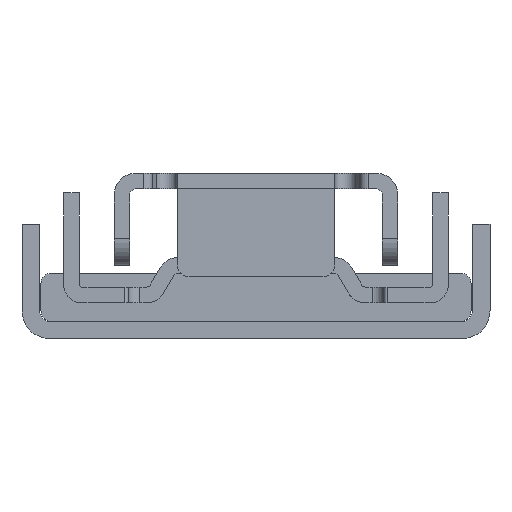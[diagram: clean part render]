
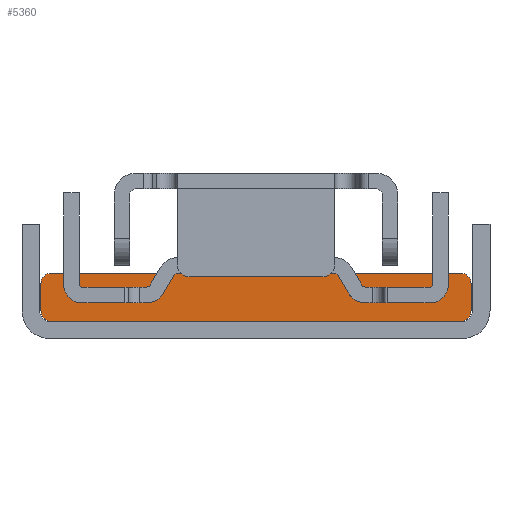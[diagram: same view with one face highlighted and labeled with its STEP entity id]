
A CAD part, front view. The second image highlights one B-rep face of the part: STEP entity #5360.
In plain terms, the highlighted planar face has unit normal (0, -1, 0) as drawn and (-1, 0, 0) by its records, which use the part's own axes.
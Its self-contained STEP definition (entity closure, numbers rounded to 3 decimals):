
#5184=DIRECTION('',(0.,0.,1.));
#5185=VECTOR('',#5184,46.6);
#5186=CARTESIAN_POINT('',(-48.7,0.,-23.3));
#5187=LINE('',#5186,#5185);
#5188=CARTESIAN_POINT('',(-48.7,4.3,23.3));
#5189=DIRECTION('',(-1.,0.,0.));
#5190=DIRECTION('',(0.,0.,1.));
#5191=AXIS2_PLACEMENT_3D('',#5188,#5189,#5190);
#5193=CARTESIAN_POINT('',(-48.7,1.2,23.3));
#5194=DIRECTION('',(-1.,0.,0.));
#5195=DIRECTION('',(0.,-1.,0.));
#5196=AXIS2_PLACEMENT_3D('',#5193,#5194,#5195);
#5198=CARTESIAN_POINT('',(-48.7,1.2,-23.3));
#5199=DIRECTION('',(-1.,0.,0.));
#5200=DIRECTION('',(0.,0.,-1.));
#5201=AXIS2_PLACEMENT_3D('',#5198,#5199,#5200);
#5203=DIRECTION('',(0.,1.,0.));
#5204=VECTOR('',#5203,3.1);
#5205=CARTESIAN_POINT('',(-48.7,1.2,-24.5));
#5206=LINE('',#5205,#5204);
#5207=CARTESIAN_POINT('',(-48.7,4.3,-23.3));
#5208=DIRECTION('',(-1.,0.,0.));
#5209=DIRECTION('',(0.,1.,0.));
#5210=AXIS2_PLACEMENT_3D('',#5207,#5208,#5209);
#5240=DIRECTION('',(0.,0.,1.));
#5241=VECTOR('',#5240,46.6);
#5242=CARTESIAN_POINT('',(-48.7,5.5,-23.3));
#5243=LINE('',#5242,#5241);
#5272=DIRECTION('',(0.,1.,0.));
#5273=VECTOR('',#5272,3.1);
#5274=CARTESIAN_POINT('',(-48.7,1.2,24.5));
#5275=LINE('',#5274,#5273);
#5280=CARTESIAN_POINT('',(-48.7,4.3,24.5));
#5281=VERTEX_POINT('',#5280);
#5282=CARTESIAN_POINT('',(-48.7,5.5,23.3));
#5283=VERTEX_POINT('',#5282);
#5284=CARTESIAN_POINT('',(-48.7,0.,23.3));
#5285=CARTESIAN_POINT('',(-48.7,1.2,24.5));
#5286=VERTEX_POINT('',#5284);
#5287=VERTEX_POINT('',#5285);
#5292=CARTESIAN_POINT('',(-48.7,5.5,-23.3));
#5293=CARTESIAN_POINT('',(-48.7,4.3,-24.5));
#5294=VERTEX_POINT('',#5292);
#5295=VERTEX_POINT('',#5293);
#5304=CARTESIAN_POINT('',(-48.7,1.2,-24.5));
#5305=VERTEX_POINT('',#5304);
#5306=CARTESIAN_POINT('',(-48.7,0.,-23.3));
#5307=VERTEX_POINT('',#5306);
#5339=CARTESIAN_POINT('',(-48.7,0.,-24.5));
#5340=DIRECTION('',(-1.,0.,0.));
#5341=DIRECTION('',(0.,0.,1.));
#5342=AXIS2_PLACEMENT_3D('',#5339,#5340,#5341);
#5343=PLANE('',#5342);
#5345=ORIENTED_EDGE('',*,*,#5344,.F.);
#5347=ORIENTED_EDGE('',*,*,#5346,.F.);
#5348=ORIENTED_EDGE('',*,*,#5329,.F.);
#5349=ORIENTED_EDGE('',*,*,#5319,.F.);
#5351=ORIENTED_EDGE('',*,*,#5350,.F.);
#5353=ORIENTED_EDGE('',*,*,#5352,.T.);
#5355=ORIENTED_EDGE('',*,*,#5354,.F.);
#5357=ORIENTED_EDGE('',*,*,#5356,.T.);
#5358=EDGE_LOOP('',(#5345,#5347,#5348,#5349,#5351,#5353,#5355,#5357));
#5359=FACE_OUTER_BOUND('',#5358,.F.);
#5360=ADVANCED_FACE('',(#5359),#5343,.T.);
#5192=CIRCLE('',#5191,1.2);
#5197=CIRCLE('',#5196,1.2);
#5202=CIRCLE('',#5201,1.2);
#5211=CIRCLE('',#5210,1.2);
#5319=EDGE_CURVE('',#5307,#5286,#5187,.T.);
#5329=EDGE_CURVE('',#5286,#5287,#5197,.T.);
#5344=EDGE_CURVE('',#5281,#5283,#5192,.T.);
#5346=EDGE_CURVE('',#5287,#5281,#5275,.T.);
#5350=EDGE_CURVE('',#5305,#5307,#5202,.T.);
#5352=EDGE_CURVE('',#5305,#5295,#5206,.T.);
#5354=EDGE_CURVE('',#5294,#5295,#5211,.T.);
#5356=EDGE_CURVE('',#5294,#5283,#5243,.T.);
